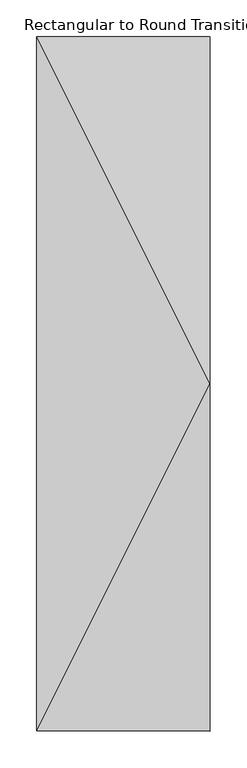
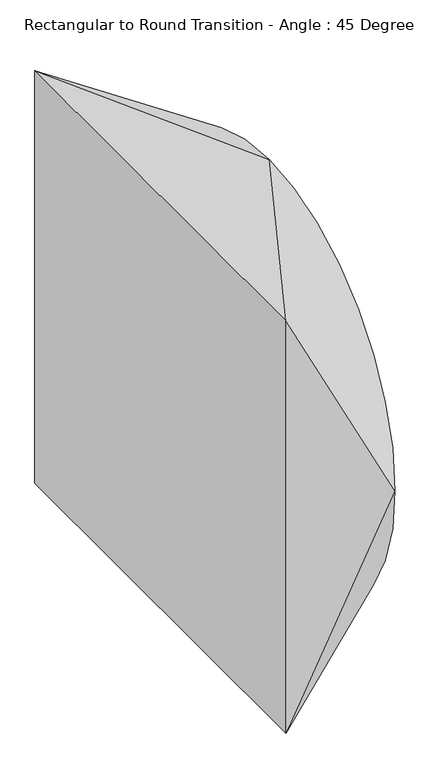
"""IFC4 building model written with IfcOpenShell, lengths in millimetres: duct fitting geometry, Rectangular to Round Transition - Angle : 45 Degree."""

from ifc_helpers import new_model, si_unit, frame, origin, place, context, project, spatial, circle_curve, source, transform, mapped, element, save
from ifc_brep_helpers import plane_surface, spline_surface, advanced_brep


def rectangular_to_round_transition_angle_45_degree_ce135f2d(model_context):
    return source(origin(), model_context, "Body", "AdvancedBrep", [
        advanced_brep(
        [(234.95, 0.0, 469.9), (234.95, -469.9, 0.0), (234.95, 0.0, -469.9), (234.95, 469.9, 0.0), (0.0, -469.9, 469.9), (0.0, 469.9, 469.9), (0.0, 469.9, -469.9), (0.0, -469.9, -469.9)],
        [
            (0, 1, circle_curve(frame((234.95, 0.0, 0.0), z_axis=(1.0, 0.0, 0.0), x_axis=(0.0, 1.0, 0.0)), 469.9)),
            (1, 2, circle_curve(frame((234.95, 0.0, 0.0), z_axis=(1.0, 0.0, 0.0), x_axis=(0.0, 1.0, 0.0)), 469.9)),
            (2, 3, circle_curve(frame((234.95, 0.0, 0.0), z_axis=(1.0, 0.0, 0.0), x_axis=(0.0, 1.0, 0.0)), 469.9)),
            (3, 0, circle_curve(frame((234.95, 0.0, 0.0), z_axis=(1.0, 0.0, 0.0), x_axis=(0.0, 1.0, 0.0)), 469.9)),
            (4, 5),
            (5, 6),
            (6, 7),
            (7, 4),
            (0, 4),
            (4, 1),
            (7, 1),
            (7, 2),
            (6, 2),
            (6, 3),
            (5, 3),
            (5, 0),
        ],
        [
            plane_surface(frame((234.95, 0.0, 0.0), z_axis=(1.0, 0.0, 0.0), x_axis=(0.0, 0.0, -1.0))),
            plane_surface(frame((0.0, 0.0, 0.0), z_axis=(-1.0, 0.0, 0.0), x_axis=(0.0, 0.0, -1.0))),
            spline_surface(2, 1, [[(0.0, -469.9, 469.9), (234.95, 0.0, 469.9)], [(0.0, -469.9, 469.9), (234.95, -469.9, 469.9)], [(0.0, -469.9, 469.9), (234.95, -469.9, 0.0)]], [3, 3], [2, 2], [0.0, 1.0], [0.0, 1.0], weights=[[1.0, 1.0], [0.7071067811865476, 0.7071067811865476], [1.0, 1.0]]),
            plane_surface(frame((0.0, -469.9, 0.0), z_axis=(0.0, -1.0, 0.0), x_axis=(0.0, 0.0, -1.0))),
            spline_surface(2, 1, [[(0.0, -469.9, -469.9), (234.95, -469.9, 0.0)], [(0.0, -469.9, -469.9), (234.95, -469.9, -469.9)], [(0.0, -469.9, -469.9), (234.95, 0.0, -469.9)]], [3, 3], [2, 2], [0.0, 1.0], [0.0, 1.0], weights=[[1.0, 1.0], [0.7071067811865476, 0.7071067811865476], [1.0, 1.0]]),
            plane_surface(frame((0.0, 0.0, -469.9), z_axis=(0.0, 0.0, -1.0), x_axis=(0.0, 1.0, 0.0))),
            spline_surface(2, 1, [[(0.0, 469.9, -469.9), (234.95, 0.0, -469.9)], [(0.0, 469.9, -469.9), (234.95, 469.9, -469.9)], [(0.0, 469.9, -469.9), (234.95, 469.9, 0.0)]], [3, 3], [2, 2], [0.0, 1.0], [0.0, 1.0], weights=[[1.0, 1.0], [0.7071067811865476, 0.7071067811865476], [1.0, 1.0]]),
            plane_surface(frame((0.0, 469.9, 0.0), z_axis=(0.0, 1.0, 0.0), x_axis=(0.0, 0.0, 1.0))),
            spline_surface(2, 1, [[(0.0, 469.9, 469.9), (234.95, 469.9, 0.0)], [(0.0, 469.9, 469.9), (234.95, 469.9, 469.9)], [(0.0, 469.9, 469.9), (234.95, 0.0, 469.9)]], [3, 3], [2, 2], [0.0, 1.0], [0.0, 1.0], weights=[[1.0, 1.0], [0.7071067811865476, 0.7071067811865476], [1.0, 1.0]]),
            plane_surface(frame((0.0, 0.0, 469.9), z_axis=(0.0, 0.0, 1.0), x_axis=(0.0, -1.0, 0.0))),
        ],
        [
            (0, [[1, 2, 3, 4]]),
            (1, [[5, 6, 7, 8]]),
            (2, [[-1, 9, 10]]),
            (3, [[-8, 11, -10]]),
            (4, [[-2, -11, 12]]),
            (5, [[-7, 13, -12]]),
            (6, [[-3, -13, 14]]),
            (7, [[-6, 15, -14]]),
            (8, [[-4, -15, 16]]),
            (9, [[-5, -9, -16]]),
        ],
    ),
    ])


if __name__ == "__main__":
    model = new_model("IFC4")
    model_context = context("Model", 3, world=origin())
    ifc_project = project(units=[si_unit("LENGTHUNIT", "METRE", prefix="MILLI")], contexts=[model_context])
    site = spatial("IfcSite", under=ifc_project)
    building = spatial("IfcBuilding", under=site)
    placement = place(None, origin())
    rectangular_to_round_transition_angle_45_degree_shape = rectangular_to_round_transition_angle_45_degree_ce135f2d(model_context)
    element("IfcDuctFitting", 1, ObjectType="Rectangular to Round Transition - Angle : 45 Degree", at=placement, inside=building, context=model_context, shape_type="MappedRepresentation", body=[
        mapped(rectangular_to_round_transition_angle_45_degree_shape, transform((0.0, 0.0, 0.0), x_axis=(1.0, 0.0, 0.0), y_axis=(0.0, 1.0, 0.0), z_axis=(0.0, 0.0, 1.0))),
    ])
    save(model, "model.ifc")
